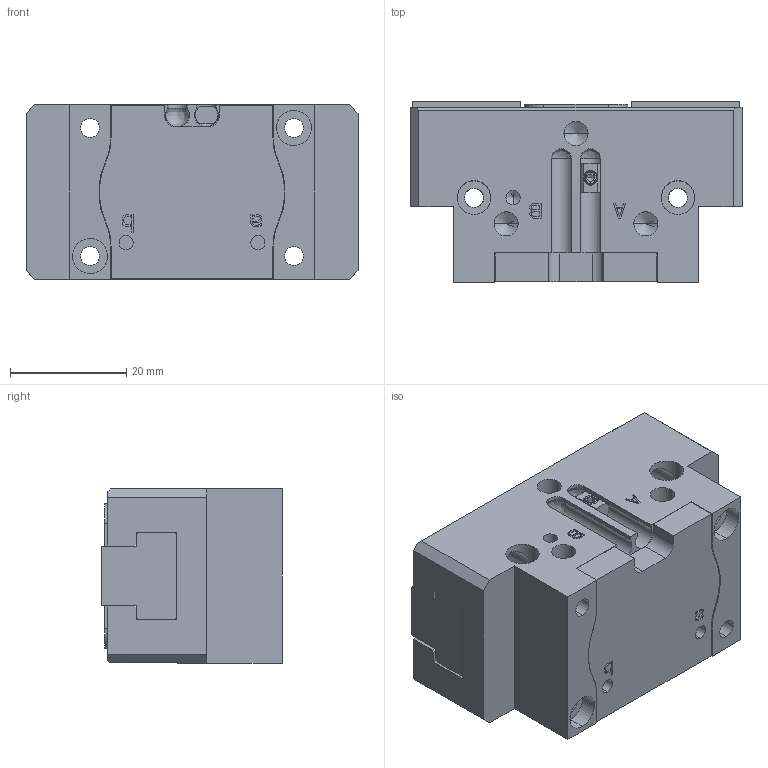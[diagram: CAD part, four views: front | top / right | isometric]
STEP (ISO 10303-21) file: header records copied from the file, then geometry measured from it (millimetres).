
FILE_DESCRIPTION (( 'STEP AP214' ), '1' );
FILE_NAME ('FPT50A-01.STEP', '2021-09-18T00:48:57', ( 'DEEP' ), ( 'Microsoft' ), 'SwSTEP 2.0', 'SolidWorks 2016', '' );
FILE_SCHEMA (( 'AUTOMOTIVE_DESIGN' ));
Length unit declared in the file: millimetre
Products named in the file (12): FPT50A-01-002; FPT50A-01-004; FPT50A-01-005; FPT50A-01-001; FPT50A-01-003; FPT50A-01
Assembly tree (6 placements, depth 2):
  FPT50A-01-002
  FPT50A-01-004
  FPT50A-01-005
  FPT50A-01-001
  FPT50A-01-003
Bounding box: 57 x 31 x 30 mm (x, y, z)
Volume: 40131.9 mm3; surface area: 20569.7 mm2
Topology: 6 solids, 6 shells, 497 faces, 1324 edges, 843 vertices
Faces by surface type: plane 302, cylinder 133, cone 56, bspline 6
Entity records: 14776 total; most frequent: CARTESIAN_POINT 2960, ORIENTED_EDGE 2404, DIRECTION 2358, EDGE_CURVE 1202, VECTOR 876, LINE 876, VERTEX_POINT 787, AXIS2_PLACEMENT_3D 741
